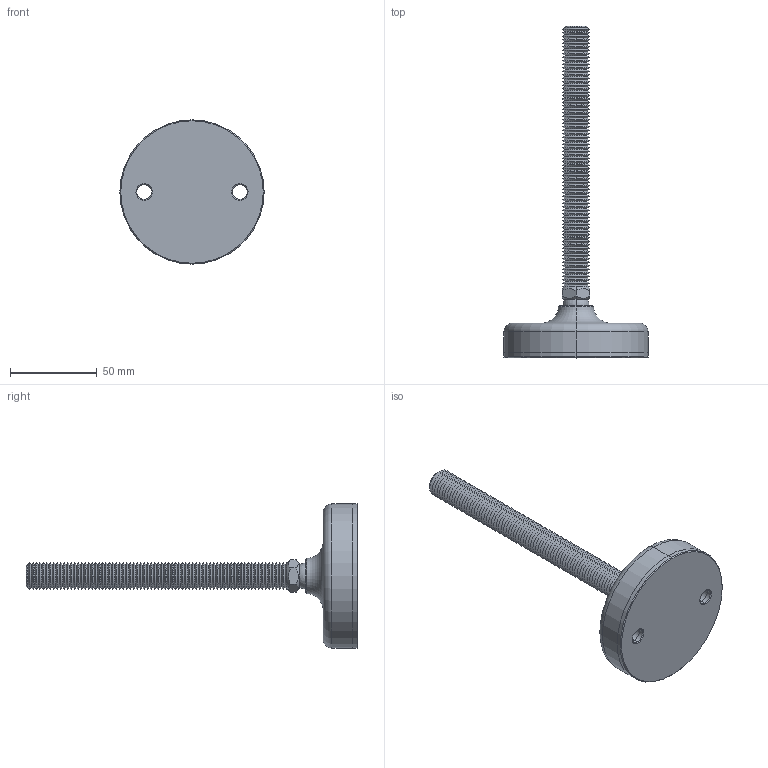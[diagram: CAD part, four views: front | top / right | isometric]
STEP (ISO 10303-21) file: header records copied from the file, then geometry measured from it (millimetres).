
FILE_DESCRIPTION (( 'STEP AP203' ), '1' );
FILE_NAME ('34724.W1604.step', '2019-11-28T22:12:15', ( '' ), ( '' ), 'SwSTEP 2.0', 'SolidWorks 2017', '' );
FILE_SCHEMA (( 'CONFIG_CONTROL_DESIGN' ));
Length unit declared in the file: millimetre
Products named in the file (4): Part1_34724.W1604; Part3_34724.W1604; Part2_34724.W1604; 34724.W1604
Assembly tree (3 placements, depth 2):
  34724.W1604
    Part1_34724.W1604
    Part2_34724.W1604
    Part3_34724.W1604
Bounding box: 83 x 191 x 83 mm (x, y, z)
Volume: 135516.5 mm3; surface area: 41942.9 mm2
Topology: 3 solids, 3 shells, 352 faces, 719 edges, 373 vertices
Faces by surface type: cone 318, plane 14, cylinder 12, sphere 4, torus 4
Entity records: 9462 total; most frequent: DIRECTION 1776, CARTESIAN_POINT 1584, ORIENTED_EDGE 1420, AXIS2_PLACEMENT_3D 720, EDGE_CURVE 710, VERTEX_POINT 368, EDGE_LOOP 364, CIRCLE 362
